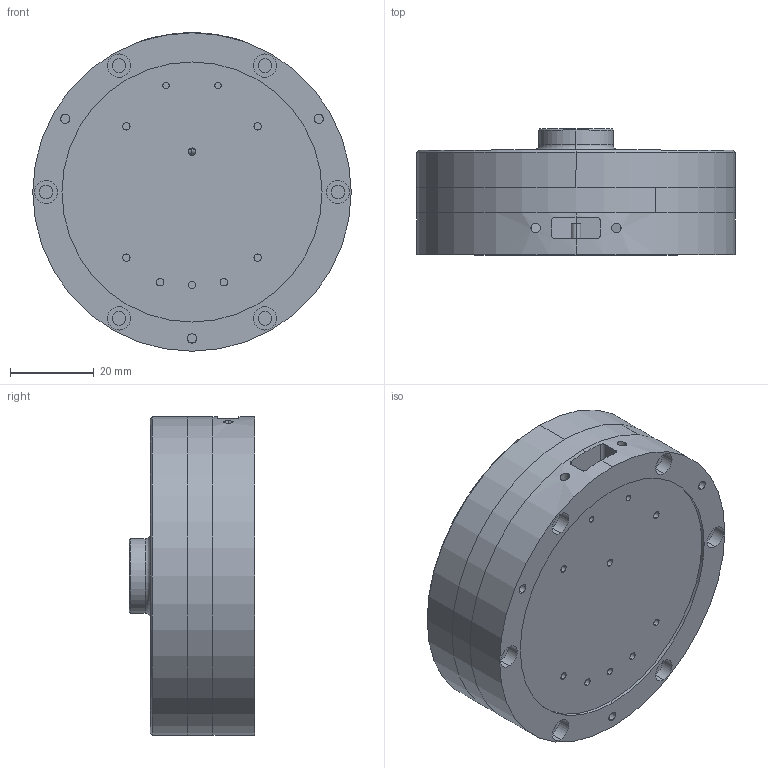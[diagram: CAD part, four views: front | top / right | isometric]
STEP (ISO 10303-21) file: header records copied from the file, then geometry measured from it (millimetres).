
FILE_DESCRIPTION (( 'STEP AP214' ), '1' );
FILE_NAME ('iload-tr--50#-assembly-outline.STEP', '2012-05-01T02:18:42', ( '' ), ( '' ), 'SwSTEP 2.0', 'SolidWorks 2009', '' );
FILE_SCHEMA (( 'AUTOMOTIVE_DESIGN' ));
Length unit declared in the file: inch
Products named in the file (1): iload-tr--50#-assembly-outline
Bounding box: 76.2 x 30.1 x 76.2 mm (x, y, z)
Surface area: 23551.7 mm2 (no closed solid volume)
Topology: 0 solids, 3 shells, 94 faces, 307 edges, 226 vertices
Faces by surface type: cylinder 70, plane 18, cone 4, torus 2
Entity records: 4982 total; most frequent: CARTESIAN_POINT 760, DIRECTION 693, ORIENTED_EDGE 522, EDGE_CURVE 307, AXIS2_PLACEMENT_3D 305, VERTEX_POINT 226, CIRCLE 210, EDGE_LOOP 168
